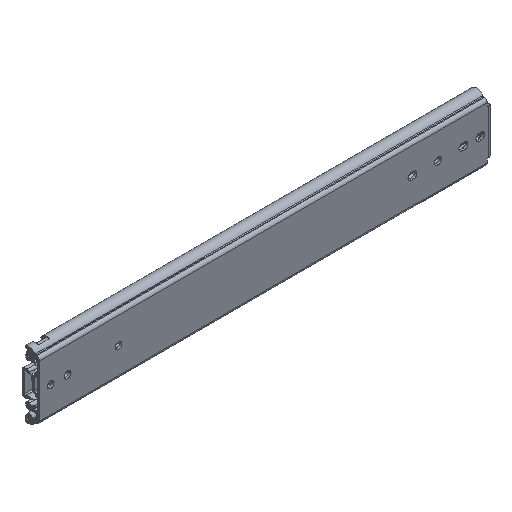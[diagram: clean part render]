
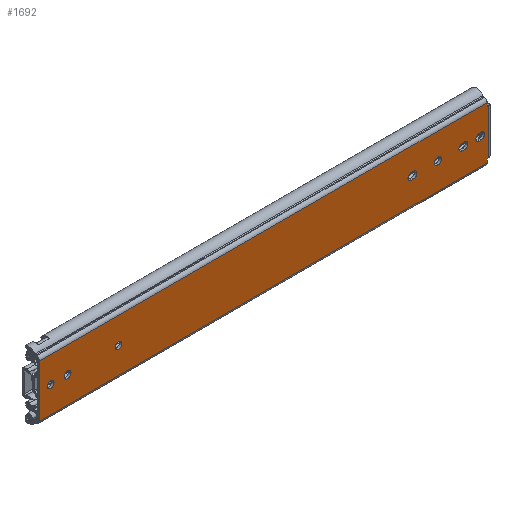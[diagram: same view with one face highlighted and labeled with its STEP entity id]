
A CAD part, isometric view. The second image highlights one B-rep face of the part: STEP entity #1692.
In plain terms, the highlighted planar face has unit normal (0, -1, 0).
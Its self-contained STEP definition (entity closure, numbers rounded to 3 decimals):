
#19=DIRECTION('',(0.,0.,-1.));
#20=VECTOR('',#19,58.586);
#21=CARTESIAN_POINT('',(0.,0.,29.293));
#22=LINE('',#21,#20);
#250=CARTESIAN_POINT('',(12.7,0.,0.));
#251=DIRECTION('',(0.,1.,0.));
#252=DIRECTION('',(1.,0.,0.));
#253=AXIS2_PLACEMENT_3D('',#250,#251,#252);
#255=CARTESIAN_POINT('',(12.7,0.,0.));
#256=DIRECTION('',(0.,1.,0.));
#257=DIRECTION('',(-1.,0.,0.));
#258=AXIS2_PLACEMENT_3D('',#255,#256,#257);
#260=CARTESIAN_POINT('',(88.9,0.,0.));
#261=DIRECTION('',(0.,1.,0.));
#262=DIRECTION('',(1.,0.,0.));
#263=AXIS2_PLACEMENT_3D('',#260,#261,#262);
#265=CARTESIAN_POINT('',(88.9,0.,0.));
#266=DIRECTION('',(0.,1.,0.));
#267=DIRECTION('',(-1.,0.,0.));
#268=AXIS2_PLACEMENT_3D('',#265,#266,#267);
#270=CARTESIAN_POINT('',(447.7,0.,0.));
#271=DIRECTION('',(0.,1.,0.));
#272=DIRECTION('',(1.,0.,0.));
#273=AXIS2_PLACEMENT_3D('',#270,#271,#272);
#275=CARTESIAN_POINT('',(447.7,0.,0.));
#276=DIRECTION('',(0.,1.,0.));
#277=DIRECTION('',(-1.,0.,0.));
#278=AXIS2_PLACEMENT_3D('',#275,#276,#277);
#280=CARTESIAN_POINT('',(417.85,0.,0.));
#281=DIRECTION('',(0.,1.,0.));
#282=DIRECTION('',(0.,0.,-1.));
#283=AXIS2_PLACEMENT_3D('',#280,#281,#282);
#285=DIRECTION('',(-1.,0.,0.));
#286=VECTOR('',#285,2.5);
#287=CARTESIAN_POINT('',(420.35,0.,-3.75));
#288=LINE('',#287,#286);
#289=CARTESIAN_POINT('',(420.35,0.,0.));
#290=DIRECTION('',(0.,1.,0.));
#291=DIRECTION('',(0.,0.,1.));
#292=AXIS2_PLACEMENT_3D('',#289,#290,#291);
#294=DIRECTION('',(1.,0.,0.));
#295=VECTOR('',#294,2.5);
#296=CARTESIAN_POINT('',(417.85,0.,3.75));
#297=LINE('',#296,#295);
#298=CARTESIAN_POINT('',(475.05,0.,0.));
#299=DIRECTION('',(0.,1.,0.));
#300=DIRECTION('',(0.,0.,-1.));
#301=AXIS2_PLACEMENT_3D('',#298,#299,#300);
#303=DIRECTION('',(-1.,0.,0.));
#304=VECTOR('',#303,2.5);
#305=CARTESIAN_POINT('',(477.55,0.,-3.75));
#306=LINE('',#305,#304);
#307=CARTESIAN_POINT('',(477.55,0.,0.));
#308=DIRECTION('',(0.,1.,0.));
#309=DIRECTION('',(0.,0.,1.));
#310=AXIS2_PLACEMENT_3D('',#307,#308,#309);
#312=DIRECTION('',(1.,0.,0.));
#313=VECTOR('',#312,2.5);
#314=CARTESIAN_POINT('',(475.05,0.,3.75));
#315=LINE('',#314,#313);
#316=CARTESIAN_POINT('',(494.05,0.,0.));
#317=DIRECTION('',(0.,1.,0.));
#318=DIRECTION('',(0.,0.,-1.));
#319=AXIS2_PLACEMENT_3D('',#316,#317,#318);
#321=DIRECTION('',(-1.,0.,0.));
#322=VECTOR('',#321,2.5);
#323=CARTESIAN_POINT('',(496.55,0.,-3.75));
#324=LINE('',#323,#322);
#325=CARTESIAN_POINT('',(496.55,0.,0.));
#326=DIRECTION('',(0.,1.,0.));
#327=DIRECTION('',(0.,0.,1.));
#328=AXIS2_PLACEMENT_3D('',#325,#326,#327);
#330=DIRECTION('',(1.,0.,0.));
#331=VECTOR('',#330,2.5);
#332=CARTESIAN_POINT('',(494.05,0.,3.75));
#333=LINE('',#332,#331);
#334=CARTESIAN_POINT('',(31.8,0.,0.));
#335=DIRECTION('',(0.,1.,0.));
#336=DIRECTION('',(1.,0.,0.));
#337=AXIS2_PLACEMENT_3D('',#334,#335,#336);
#339=CARTESIAN_POINT('',(31.8,0.,0.));
#340=DIRECTION('',(0.,1.,0.));
#341=DIRECTION('',(-1.,0.,0.));
#342=AXIS2_PLACEMENT_3D('',#339,#340,#341);
#344=DIRECTION('',(-1.,0.,0.));
#345=VECTOR('',#344,2.);
#346=CARTESIAN_POINT('',(505.,0.,-25.5));
#347=LINE('',#346,#345);
#348=DIRECTION('',(-1.,0.,0.));
#349=VECTOR('',#348,503.);
#350=CARTESIAN_POINT('',(503.,0.,-29.293));
#351=LINE('',#350,#349);
#352=DIRECTION('',(-1.,0.,0.));
#353=VECTOR('',#352,503.);
#354=CARTESIAN_POINT('',(503.,0.,29.293));
#355=LINE('',#354,#353);
#356=DIRECTION('',(-1.,0.,0.));
#357=VECTOR('',#356,2.);
#358=CARTESIAN_POINT('',(505.,0.,25.5));
#359=LINE('',#358,#357);
#450=DIRECTION('',(0.,0.,1.));
#451=VECTOR('',#450,51.);
#452=CARTESIAN_POINT('',(505.,0.,-25.5));
#453=LINE('',#452,#451);
#560=DIRECTION('',(0.,0.,-1.));
#561=VECTOR('',#560,3.793);
#562=CARTESIAN_POINT('',(503.,0.,29.293));
#563=LINE('',#562,#561);
#596=DIRECTION('',(0.,0.,-1.));
#597=VECTOR('',#596,3.793);
#598=CARTESIAN_POINT('',(503.,0.,-25.5));
#599=LINE('',#598,#597);
#1107=CARTESIAN_POINT('',(0.,0.,29.293));
#1109=VERTEX_POINT('',#1107);
#1112=CARTESIAN_POINT('',(0.,0.,-29.293));
#1114=VERTEX_POINT('',#1112);
#1203=CARTESIAN_POINT('',(16.45,0.,0.));
#1204=CARTESIAN_POINT('',(8.95,0.,0.));
#1205=VERTEX_POINT('',#1203);
#1206=VERTEX_POINT('',#1204);
#1207=CARTESIAN_POINT('',(92.65,0.,0.));
#1208=CARTESIAN_POINT('',(85.15,0.,0.));
#1209=VERTEX_POINT('',#1207);
#1210=VERTEX_POINT('',#1208);
#1211=CARTESIAN_POINT('',(451.45,0.,0.));
#1212=CARTESIAN_POINT('',(443.95,0.,0.));
#1213=VERTEX_POINT('',#1211);
#1214=VERTEX_POINT('',#1212);
#1215=CARTESIAN_POINT('',(417.85,0.,-3.75));
#1216=CARTESIAN_POINT('',(417.85,0.,3.75));
#1217=VERTEX_POINT('',#1215);
#1218=VERTEX_POINT('',#1216);
#1219=CARTESIAN_POINT('',(420.35,0.,3.75));
#1220=VERTEX_POINT('',#1219);
#1221=CARTESIAN_POINT('',(420.35,0.,-3.75));
#1222=VERTEX_POINT('',#1221);
#1223=CARTESIAN_POINT('',(475.05,0.,-3.75));
#1224=CARTESIAN_POINT('',(475.05,0.,3.75));
#1225=VERTEX_POINT('',#1223);
#1226=VERTEX_POINT('',#1224);
#1227=CARTESIAN_POINT('',(477.55,0.,3.75));
#1228=VERTEX_POINT('',#1227);
#1229=CARTESIAN_POINT('',(477.55,0.,-3.75));
#1230=VERTEX_POINT('',#1229);
#1231=CARTESIAN_POINT('',(494.05,0.,-3.75));
#1232=CARTESIAN_POINT('',(494.05,0.,3.75));
#1233=VERTEX_POINT('',#1231);
#1234=VERTEX_POINT('',#1232);
#1235=CARTESIAN_POINT('',(496.55,0.,3.75));
#1236=VERTEX_POINT('',#1235);
#1237=CARTESIAN_POINT('',(496.55,0.,-3.75));
#1238=VERTEX_POINT('',#1237);
#1301=CARTESIAN_POINT('',(503.,0.,29.293));
#1302=VERTEX_POINT('',#1301);
#1303=CARTESIAN_POINT('',(503.,0.,-29.293));
#1304=VERTEX_POINT('',#1303);
#1307=CARTESIAN_POINT('',(505.,0.,25.5));
#1308=CARTESIAN_POINT('',(503.,0.,25.5));
#1309=VERTEX_POINT('',#1307);
#1310=VERTEX_POINT('',#1308);
#1311=CARTESIAN_POINT('',(505.,0.,-25.5));
#1312=CARTESIAN_POINT('',(503.,0.,-25.5));
#1313=VERTEX_POINT('',#1311);
#1314=VERTEX_POINT('',#1312);
#1379=CARTESIAN_POINT('',(35.55,0.,0.));
#1380=CARTESIAN_POINT('',(28.05,0.,0.));
#1381=VERTEX_POINT('',#1379);
#1382=VERTEX_POINT('',#1380);
#1617=CARTESIAN_POINT('',(0.,0.,32.5));
#1618=DIRECTION('',(0.,-1.,0.));
#1619=DIRECTION('',(0.,0.,-1.));
#1620=AXIS2_PLACEMENT_3D('',#1617,#1618,#1619);
#1621=PLANE('',#1620);
#1623=ORIENTED_EDGE('',*,*,#1622,.F.);
#1625=ORIENTED_EDGE('',*,*,#1624,.T.);
#1627=ORIENTED_EDGE('',*,*,#1626,.T.);
#1629=ORIENTED_EDGE('',*,*,#1628,.T.);
#1630=ORIENTED_EDGE('',*,*,#1402,.F.);
#1632=ORIENTED_EDGE('',*,*,#1631,.F.);
#1634=ORIENTED_EDGE('',*,*,#1633,.T.);
#1636=ORIENTED_EDGE('',*,*,#1635,.F.);
#1637=EDGE_LOOP('',(#1623,#1625,#1627,#1629,#1630,#1632,#1634,#1636));
#1638=FACE_OUTER_BOUND('',#1637,.F.);
#1640=ORIENTED_EDGE('',*,*,#1639,.F.);
#1642=ORIENTED_EDGE('',*,*,#1641,.F.);
#1643=EDGE_LOOP('',(#1640,#1642));
#1644=FACE_BOUND('',#1643,.F.);
#1646=ORIENTED_EDGE('',*,*,#1645,.F.);
#1648=ORIENTED_EDGE('',*,*,#1647,.F.);
#1649=EDGE_LOOP('',(#1646,#1648));
#1650=FACE_BOUND('',#1649,.F.);
#1652=ORIENTED_EDGE('',*,*,#1651,.F.);
#1654=ORIENTED_EDGE('',*,*,#1653,.F.);
#1656=ORIENTED_EDGE('',*,*,#1655,.F.);
#1658=ORIENTED_EDGE('',*,*,#1657,.F.);
#1659=EDGE_LOOP('',(#1652,#1654,#1656,#1658));
#1660=FACE_BOUND('',#1659,.F.);
#1662=ORIENTED_EDGE('',*,*,#1661,.F.);
#1664=ORIENTED_EDGE('',*,*,#1663,.F.);
#1666=ORIENTED_EDGE('',*,*,#1665,.F.);
#1668=ORIENTED_EDGE('',*,*,#1667,.F.);
#1669=EDGE_LOOP('',(#1662,#1664,#1666,#1668));
#1670=FACE_BOUND('',#1669,.F.);
#1672=ORIENTED_EDGE('',*,*,#1671,.F.);
#1674=ORIENTED_EDGE('',*,*,#1673,.F.);
#1676=ORIENTED_EDGE('',*,*,#1675,.F.);
#1678=ORIENTED_EDGE('',*,*,#1677,.F.);
#1679=EDGE_LOOP('',(#1672,#1674,#1676,#1678));
#1680=FACE_BOUND('',#1679,.F.);
#1682=ORIENTED_EDGE('',*,*,#1681,.F.);
#1684=ORIENTED_EDGE('',*,*,#1683,.F.);
#1685=EDGE_LOOP('',(#1682,#1684));
#1686=FACE_BOUND('',#1685,.F.);
#1687=ORIENTED_EDGE('',*,*,#1607,.F.);
#1689=ORIENTED_EDGE('',*,*,#1688,.F.);
#1690=EDGE_LOOP('',(#1687,#1689));
#1691=FACE_BOUND('',#1690,.F.);
#254=CIRCLE('',#253,3.75);
#259=CIRCLE('',#258,3.75);
#264=CIRCLE('',#263,3.75);
#269=CIRCLE('',#268,3.75);
#274=CIRCLE('',#273,3.75);
#279=CIRCLE('',#278,3.75);
#284=CIRCLE('',#283,3.75);
#293=CIRCLE('',#292,3.75);
#302=CIRCLE('',#301,3.75);
#311=CIRCLE('',#310,3.75);
#320=CIRCLE('',#319,3.75);
#329=CIRCLE('',#328,3.75);
#338=CIRCLE('',#337,3.75);
#343=CIRCLE('',#342,3.75);
#1402=EDGE_CURVE('',#1109,#1114,#22,.T.);
#1607=EDGE_CURVE('',#1205,#1206,#254,.T.);
#1622=EDGE_CURVE('',#1313,#1309,#453,.T.);
#1624=EDGE_CURVE('',#1313,#1314,#347,.T.);
#1626=EDGE_CURVE('',#1314,#1304,#599,.T.);
#1628=EDGE_CURVE('',#1304,#1114,#351,.T.);
#1631=EDGE_CURVE('',#1302,#1109,#355,.T.);
#1633=EDGE_CURVE('',#1302,#1310,#563,.T.);
#1635=EDGE_CURVE('',#1309,#1310,#359,.T.);
#1639=EDGE_CURVE('',#1209,#1210,#264,.T.);
#1641=EDGE_CURVE('',#1210,#1209,#269,.T.);
#1645=EDGE_CURVE('',#1213,#1214,#274,.T.);
#1647=EDGE_CURVE('',#1214,#1213,#279,.T.);
#1651=EDGE_CURVE('',#1217,#1218,#284,.T.);
#1653=EDGE_CURVE('',#1222,#1217,#288,.T.);
#1655=EDGE_CURVE('',#1220,#1222,#293,.T.);
#1657=EDGE_CURVE('',#1218,#1220,#297,.T.);
#1661=EDGE_CURVE('',#1225,#1226,#302,.T.);
#1663=EDGE_CURVE('',#1230,#1225,#306,.T.);
#1665=EDGE_CURVE('',#1228,#1230,#311,.T.);
#1667=EDGE_CURVE('',#1226,#1228,#315,.T.);
#1671=EDGE_CURVE('',#1233,#1234,#320,.T.);
#1673=EDGE_CURVE('',#1238,#1233,#324,.T.);
#1675=EDGE_CURVE('',#1236,#1238,#329,.T.);
#1677=EDGE_CURVE('',#1234,#1236,#333,.T.);
#1681=EDGE_CURVE('',#1381,#1382,#338,.T.);
#1683=EDGE_CURVE('',#1382,#1381,#343,.T.);
#1688=EDGE_CURVE('',#1206,#1205,#259,.T.);
#1692=ADVANCED_FACE('',(#1638,#1644,#1650,#1660,#1670,#1680,#1686,#1691),#1621,
.T.);
